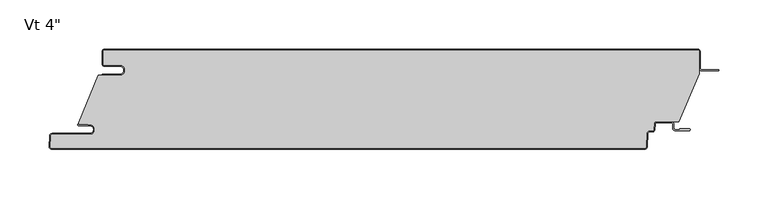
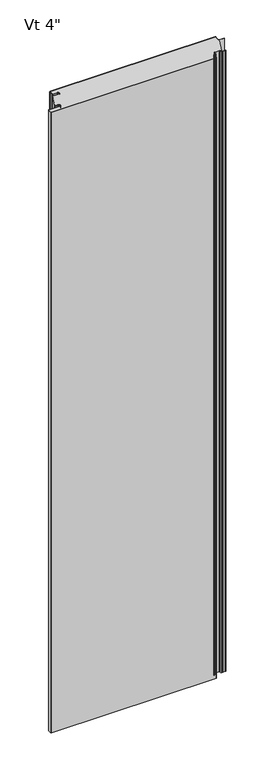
"""IFC4 building model written with IfcOpenShell, lengths in millimetres: plate geometry."""

from ifc_helpers import new_model, si_unit, point, frame, frame_2d, origin, origin_with_axes, place, context, project, spatial, polyline, circle_curve, ellipse_curve, trimmed, segment, composite_curve, outline, extrude, source, transform, mapped, element, save
from ifc_brep_helpers import plane_surface, cylinder_surface, revolved_surface, extruded_surface, advanced_brep


def plate_b093a8a8(model_context):
    return source(origin(), model_context, "Body", "SolidModel", [
        extrude(outline(composite_curve([segment(polyline([(-285.74375, -16.4625), (-301.61875, -16.4625)]), True, "CONTINUOUS"), segment(trimmed(circle_curve(frame_2d((-301.61875, -15.08125)), 1.38125), [point((-301.61875, -16.4625))], [point((-303.0, -15.08125))], False, "CARTESIAN"), True, "CONTINUOUS"), segment(polyline([(-303.0, -15.08125), (-303.0, -2.38125)]), True, "CONTINUOUS"), segment(trimmed(circle_curve(frame_2d((-301.61875, -2.38125)), 1.38125), [point((-303.0, -2.38125))], [point((-301.61875, -1.0))], False, "CARTESIAN"), True, "CONTINUOUS"), segment(polyline([(-301.61875, -1.0), (301.63125, -1.0)]), True, "CONTINUOUS"), segment(trimmed(circle_curve(frame_2d((301.63125, -2.38125)), 1.38125), [point((301.63125, -1.0))], [point((303.0125, -2.38125))], False, "CARTESIAN"), True, "CONTINUOUS"), segment(polyline([(303.0125, -2.38125), (303.0125, -24.9057308), (282.1955434, -73.6125), (259.7540783, -73.6125)]), True, "CONTINUOUS"), segment(trimmed(circle_curve(frame_2d((259.7540783, -76.2)), 2.5875), [point((259.7540783, -73.6125))], [point((257.1701244, -76.0645807))], True, "CARTESIAN"), True, "CONTINUOUS"), segment(polyline([(257.1701244, -76.0645807), (256.8680481, -81.828539)]), True, "CONTINUOUS"), segment(trimmed(circle_curve(frame_2d((255.4886911, -81.75625)), 1.38125), [point((256.8680481, -81.828539))], [point((255.4886911, -83.1375))], False, "CARTESIAN"), True, "CONTINUOUS"), segment(polyline([(255.4886911, -83.1375), (252.4448847, -83.1375)]), True, "CONTINUOUS"), segment(trimmed(circle_curve(frame_2d((252.4448847, -85.725)), 2.5875), [point((252.4448847, -83.1375))], [point((249.8609307, -85.5895807))], True, "CARTESIAN"), True, "CONTINUOUS"), segment(polyline([(249.8609307, -85.5895807), (249.1428677, -99.291039)]), True, "CONTINUOUS"), segment(trimmed(circle_curve(frame_2d((247.7635107, -99.21875)), 1.38125), [point((249.1428677, -99.291039))], [point((247.7635107, -100.6))], False, "CARTESIAN"), True, "CONTINUOUS"), segment(polyline([(247.7635107, -100.6), (-355.4799535, -100.6)]), True, "CONTINUOUS"), segment(trimmed(circle_curve(frame_2d((-355.4799535, -99.21875)), 1.38125), [point((-355.4799535, -100.6))], [point((-356.8593106, -99.146461))], False, "CARTESIAN"), True, "CONTINUOUS"), segment(polyline([(-356.8593106, -99.146461), (-356.2769291, -88.033961)]), True, "CONTINUOUS"), segment(trimmed(circle_curve(frame_2d((-354.8975721, -88.10625)), 1.38125), [point((-356.2769291, -88.033961))], [point((-354.8975721, -86.725))], False, "CARTESIAN"), True, "CONTINUOUS"), segment(polyline([(-354.8975721, -86.725), (-316.7142674, -86.725)]), True, "CONTINUOUS"), segment(trimmed(circle_curve(frame_2d((-316.7142674, -81.75625)), 4.96875), [point((-316.7142674, -86.725))], [point((-316.7142674, -76.7875))], True, "CARTESIAN"), True, "CONTINUOUS"), segment(polyline([(-316.7142674, -76.7875), (-318.3017674, -76.99375), (-318.3017674, -76.2), (-327.8125, -76.2), (-327.8125, -74.6157227), (-307.9260922, -26.4), (-285.74375, -26.4)]), True, "CONTINUOUS"), segment(trimmed(circle_curve(frame_2d((-285.74375, -21.43125)), 4.96875), [point((-285.74375, -26.4))], [point((-285.74375, -16.4625))], True, "CARTESIAN"), True, "CONTINUOUS")], self_intersect=False)), origin_with_axes(), (0.0, 0.0, 1.0), 2400.0),
        extrude(outline(composite_curve([segment(polyline([(-304.0, -25.4), (-285.74375, -25.4)]), True, "CONTINUOUS"), segment(trimmed(circle_curve(frame_2d((-285.74375, -21.43125)), 3.96875), [point((-285.74375, -25.4))], [point((-285.74375, -17.4625))], True, "CARTESIAN"), True, "CONTINUOUS"), segment(polyline([(-285.74375, -17.4625), (-301.61875, -17.4625)]), True, "CONTINUOUS"), segment(trimmed(circle_curve(frame_2d((-301.61875, -15.08125)), 2.38125), [point((-301.61875, -17.4625))], [point((-304.0, -15.08125))], False, "CARTESIAN"), True, "CONTINUOUS"), segment(polyline([(-304.0, -15.08125), (-304.0, -2.38125)]), True, "CONTINUOUS"), segment(trimmed(circle_curve(frame_2d((-301.61875, -2.38125)), 2.38125), [point((-304.0, -2.38125))], [point((-301.61875, 0.0))], False, "CARTESIAN"), True, "CONTINUOUS"), segment(polyline([(-301.61875, 0.0), (301.63125, 0.0)]), True, "CONTINUOUS"), segment(trimmed(circle_curve(frame_2d((301.63125, -2.38125)), 2.38125), [point((301.63125, 0.0))], [point((304.0125, -2.38125))], False, "CARTESIAN"), True, "CONTINUOUS"), segment(polyline([(304.0125, -2.38125), (304.0125, -19.446875)]), True, "CONTINUOUS"), segment(trimmed(circle_curve(frame_2d((305.6, -19.446875)), 1.5875), [point((304.0125, -19.446875))], [point((305.6, -21.034375))], True, "CARTESIAN"), True, "CONTINUOUS"), segment(polyline([(305.6, -21.034375), (323.0625, -21.034375), (323.0625, -22.034375), (305.6, -22.034375)]), True, "CONTINUOUS"), segment(trimmed(circle_curve(frame_2d((305.6, -19.446875)), 2.5875), [point((305.6, -22.034375))], [point((303.0125, -19.446875))], False, "CARTESIAN"), True, "CONTINUOUS"), segment(polyline([(303.0125, -19.446875), (303.0125, -2.38125)]), True, "CONTINUOUS"), segment(trimmed(circle_curve(frame_2d((301.63125, -2.38125)), 1.38125), [point((303.0125, -2.38125))], [point((301.63125, -1.0))], True, "CARTESIAN"), True, "CONTINUOUS"), segment(polyline([(301.63125, -1.0), (-301.61875, -1.0)]), True, "CONTINUOUS"), segment(trimmed(circle_curve(frame_2d((-301.61875, -2.38125)), 1.38125), [point((-301.61875, -1.0))], [point((-303.0, -2.38125))], True, "CARTESIAN"), True, "CONTINUOUS"), segment(polyline([(-303.0, -2.38125), (-303.0, -15.08125)]), True, "CONTINUOUS"), segment(trimmed(circle_curve(frame_2d((-301.61875, -15.08125)), 1.38125), [point((-303.0, -15.08125))], [point((-301.61875, -16.4625))], True, "CARTESIAN"), True, "CONTINUOUS"), segment(polyline([(-301.61875, -16.4625), (-285.74375, -16.4625)]), True, "CONTINUOUS"), segment(trimmed(circle_curve(frame_2d((-285.74375, -21.43125)), 4.96875), [point((-285.74375, -16.4625))], [point((-285.74375, -26.4))], False, "CARTESIAN"), True, "CONTINUOUS"), segment(polyline([(-285.74375, -26.4), (-304.0, -26.4), (-304.0, -25.4)]), True, "CONTINUOUS")], self_intersect=False)), origin_with_axes(), (0.0, 0.0, 1.0), 2400.0),
        advanced_brep(
        [(-328.0252049, -76.2, 2400.0), (-328.0252049, -77.7875, 2400.0), (-316.7142674, -77.7875, 2400.0), (-316.7142674, -85.725, 2400.0), (-354.8975721, -85.725, 2400.0), (-357.2755586, -87.981625, 2400.0), (-357.8579401, -99.094125, 2400.0), (-355.4799535, -101.6, 2400.0), (247.7635107, -101.6, 2400.0), (250.1414973, -99.343375, 2400.0), (250.8595603, -85.6419167, 2400.0), (252.4448847, -84.1375, 2400.0), (255.4886911, -84.1375, 2400.0), (257.8666776, -81.880875, 2400.0), (258.1687539, -76.1169167, 2400.0), (259.7540783, -74.6125, 2400.0), (274.6294826, -74.6125, 2400.0), (276.2169826, -76.2, 2400.0), (276.2169826, -80.3671875, 2400.0), (278.5982326, -82.7484375, 2400.0), (293.0898532, -82.7484375, 2400.0), (293.0898532, -80.9546875, 2400.0), (283.3607326, -80.9546875, 2400.0), (283.3607326, -81.7484375, 2400.0), (278.5982326, -81.7484375, 2400.0), (277.2169826, -80.3671875, 2400.0), (277.2169826, -76.2, 2400.0), (274.6294826, -73.6125, 2400.0), (259.7540783, -73.6125, 2400.0), (257.1701244, -76.0645807, 2400.0), (256.8680481, -81.828539, 2400.0), (255.4886911, -83.1375, 2400.0), (252.4448847, -83.1375, 2400.0), (249.8609307, -85.5895807, 2400.0), (249.1428677, -99.291039, 2400.0), (247.7635107, -100.6, 2400.0), (-355.4799535, -100.6, 2400.0), (-356.8593106, -99.146461, 2400.0), (-356.2769291, -88.033961, 2400.0), (-354.8975721, -86.725, 2400.0), (-316.7142674, -86.725, 2400.0), (-316.7142674, -76.7875, 2400.0), (-318.3017674, -76.99375, 2400.0), (-318.3017674, -76.2, 2400.0), (-328.0252049, -76.2, 0.0), (-318.3017674, -76.2, 0.0), (-318.3017674, -76.99375, 0.0), (-316.7142674, -76.7875, 0.0), (-316.7142674, -86.725, 0.0), (-354.8975721, -86.725, 0.0), (-356.2769291, -88.033961, 0.0), (-356.8593106, -99.146461, 0.0), (-355.4799535, -100.6, 0.0), (247.7635107, -100.6, 0.0), (249.1428677, -99.291039, 0.0), (249.8609307, -85.5895807, 0.0), (252.4448847, -83.1375, 0.0), (255.4886911, -83.1375, 0.0), (256.8680481, -81.828539, 0.0), (257.1701244, -76.0645807, 0.0), (259.7540783, -73.6125, 0.0), (274.6294826, -73.6125, 0.0), (277.2169826, -76.2, 0.0), (277.2169826, -80.3671875, 0.0), (278.5982326, -81.7484375, 0.0), (283.3607326, -81.7484375, 0.0), (283.3607326, -80.9546875, 0.0), (293.0898532, -80.9546875, 0.0), (293.0898532, -82.7484375, 0.0), (278.5982326, -82.7484375, 0.0), (276.2169826, -80.3671875, 0.0), (276.2169826, -76.2, 0.0), (274.6294826, -74.6125, 0.0), (259.7540783, -74.6125, 0.0), (258.1687539, -76.1169167, 0.0), (257.8666776, -81.880875, 0.0), (255.4886911, -84.1375, 0.0), (252.4448847, -84.1375, 0.0), (250.8595603, -85.6419167, 0.0), (250.1414973, -99.343375, 0.0), (247.7635107, -101.6, 0.0), (-355.4799535, -101.6, 0.0), (-357.8579401, -99.094125, 0.0), (-357.2755586, -87.981625, 0.0), (-354.8975721, -85.725, 0.0), (-316.7142674, -85.725, 0.0), (-316.7142674, -77.7875, 0.0), (-328.0252049, -77.7875, 0.0)],
        [
            (0, 1, circle_curve(frame((-328.0252049, -76.99375, 2400.0), z_axis=(0.0, 0.0, 1.0), x_axis=(1.0, 0.0, 0.0)), 0.79375)),
            (1, 2),
            (2, 3, circle_curve(frame((-316.7142674, -81.75625, 2400.0), z_axis=(0.0, 0.0, -1.0), x_axis=(1.0, 0.0, 0.0)), 3.96875)),
            (3, 4),
            (4, 5, circle_curve(frame((-354.8975721, -88.10625, 2400.0), z_axis=(0.0, 0.0, 1.0), x_axis=(1.0, 0.0, 0.0)), 2.38125)),
            (5, 6),
            (6, 7, circle_curve(frame((-355.4799535, -99.21875, 2400.0), z_axis=(0.0, 0.0, 1.0), x_axis=(1.0, 0.0, 0.0)), 2.38125)),
            (7, 8),
            (8, 9, circle_curve(frame((247.7635107, -99.21875, 2400.0), z_axis=(0.0, 0.0, 1.0), x_axis=(1.0, 0.0, 0.0)), 2.38125)),
            (9, 10),
            (10, 11, circle_curve(frame((252.4448847, -85.725, 2400.0), z_axis=(0.0, 0.0, -1.0), x_axis=(1.0, 0.0, 0.0)), 1.5875)),
            (11, 12),
            (12, 13, circle_curve(frame((255.4886911, -81.75625, 2400.0), z_axis=(0.0, 0.0, 1.0), x_axis=(1.0, 0.0, 0.0)), 2.38125)),
            (13, 14),
            (14, 15, circle_curve(frame((259.7540783, -76.2, 2400.0), z_axis=(0.0, 0.0, -1.0), x_axis=(1.0, 0.0, 0.0)), 1.5875)),
            (15, 16),
            (16, 17, circle_curve(frame((274.6294826, -76.2, 2400.0), z_axis=(0.0, 0.0, -1.0), x_axis=(1.0, 0.0, 0.0)), 1.5875)),
            (17, 18),
            (18, 19, circle_curve(frame((278.5982326, -80.3671875, 2400.0), z_axis=(0.0, 0.0, 1.0), x_axis=(1.0, 0.0, 0.0)), 2.38125)),
            (19, 20),
            (20, 21, ellipse_curve(frame((293.0898532, -81.8515625, 2400.0), z_axis=(0.0, 0.0, 1.0), x_axis=(0.0, 1.0, 0.0)), 0.896875, 0.7852275)),
            (21, 22),
            (22, 23),
            (23, 24),
            (24, 25, circle_curve(frame((278.5982326, -80.3671875, 2400.0), z_axis=(0.0, 0.0, -1.0), x_axis=(1.0, 0.0, 0.0)), 1.38125)),
            (25, 26),
            (26, 27, circle_curve(frame((274.6294826, -76.2, 2400.0), z_axis=(0.0, 0.0, 1.0), x_axis=(1.0, 0.0, 0.0)), 2.5875)),
            (27, 28),
            (28, 29, circle_curve(frame((259.7540783, -76.2, 2400.0), z_axis=(0.0, 0.0, 1.0), x_axis=(1.0, 0.0, 0.0)), 2.5875)),
            (29, 30),
            (30, 31, circle_curve(frame((255.4886911, -81.75625, 2400.0), z_axis=(0.0, 0.0, -1.0), x_axis=(1.0, 0.0, 0.0)), 1.38125)),
            (31, 32),
            (32, 33, circle_curve(frame((252.4448847, -85.725, 2400.0), z_axis=(0.0, 0.0, 1.0), x_axis=(1.0, 0.0, 0.0)), 2.5875)),
            (33, 34),
            (34, 35, circle_curve(frame((247.7635107, -99.21875, 2400.0), z_axis=(0.0, 0.0, -1.0), x_axis=(1.0, 0.0, 0.0)), 1.38125)),
            (35, 36),
            (36, 37, circle_curve(frame((-355.4799535, -99.21875, 2400.0), z_axis=(0.0, 0.0, -1.0), x_axis=(1.0, 0.0, 0.0)), 1.38125)),
            (37, 38),
            (38, 39, circle_curve(frame((-354.8975721, -88.10625, 2400.0), z_axis=(0.0, 0.0, -1.0), x_axis=(1.0, 0.0, 0.0)), 1.38125)),
            (39, 40),
            (40, 41, circle_curve(frame((-316.7142674, -81.75625, 2400.0), z_axis=(0.0, 0.0, 1.0), x_axis=(1.0, 0.0, 0.0)), 4.96875)),
            (41, 42),
            (42, 43),
            (43, 0),
            (44, 45),
            (45, 46),
            (46, 47),
            (47, 48, circle_curve(frame((-316.7142674, -81.75625, 0.0), z_axis=(0.0, 0.0, -1.0), x_axis=(1.0, 0.0, 0.0)), 4.96875)),
            (48, 49),
            (49, 50, circle_curve(frame((-354.8975721, -88.10625, 0.0), z_axis=(0.0, 0.0, 1.0), x_axis=(1.0, 0.0, 0.0)), 1.38125)),
            (50, 51),
            (51, 52, circle_curve(frame((-355.4799535, -99.21875, 0.0), z_axis=(0.0, 0.0, 1.0), x_axis=(1.0, 0.0, 0.0)), 1.38125)),
            (52, 53),
            (53, 54, circle_curve(frame((247.7635107, -99.21875, 0.0), z_axis=(0.0, 0.0, 1.0), x_axis=(1.0, 0.0, 0.0)), 1.38125)),
            (54, 55),
            (55, 56, circle_curve(frame((252.4448847, -85.725, 0.0), z_axis=(0.0, 0.0, -1.0), x_axis=(1.0, 0.0, 0.0)), 2.5875)),
            (56, 57),
            (57, 58, circle_curve(frame((255.4886911, -81.75625, 0.0), z_axis=(0.0, 0.0, 1.0), x_axis=(1.0, 0.0, 0.0)), 1.38125)),
            (58, 59),
            (59, 60, circle_curve(frame((259.7540783, -76.2, 0.0), z_axis=(0.0, 0.0, -1.0), x_axis=(1.0, 0.0, 0.0)), 2.5875)),
            (60, 61),
            (61, 62, circle_curve(frame((274.6294826, -76.2, 0.0), z_axis=(0.0, 0.0, -1.0), x_axis=(1.0, 0.0, 0.0)), 2.5875)),
            (62, 63),
            (63, 64, circle_curve(frame((278.5982326, -80.3671875, 0.0), z_axis=(0.0, 0.0, 1.0), x_axis=(1.0, 0.0, 0.0)), 1.38125)),
            (64, 65),
            (65, 66),
            (66, 67),
            (67, 68, ellipse_curve(frame((293.0898532, -81.8515625, 0.0), z_axis=(0.0, 0.0, -1.0), x_axis=(0.0, 1.0, 0.0)), 0.896875, 0.7852275)),
            (68, 69),
            (69, 70, circle_curve(frame((278.5982326, -80.3671875, 0.0), z_axis=(0.0, 0.0, -1.0), x_axis=(1.0, 0.0, 0.0)), 2.38125)),
            (70, 71),
            (71, 72, circle_curve(frame((274.6294826, -76.2, 0.0), z_axis=(0.0, 0.0, 1.0), x_axis=(1.0, 0.0, 0.0)), 1.5875)),
            (72, 73),
            (73, 74, circle_curve(frame((259.7540783, -76.2, 0.0), z_axis=(0.0, 0.0, 1.0), x_axis=(1.0, 0.0, 0.0)), 1.5875)),
            (74, 75),
            (75, 76, circle_curve(frame((255.4886911, -81.75625, 0.0), z_axis=(0.0, 0.0, -1.0), x_axis=(1.0, 0.0, 0.0)), 2.38125)),
            (76, 77),
            (77, 78, circle_curve(frame((252.4448847, -85.725, 0.0), z_axis=(0.0, 0.0, 1.0), x_axis=(1.0, 0.0, 0.0)), 1.5875)),
            (78, 79),
            (79, 80, circle_curve(frame((247.7635107, -99.21875, 0.0), z_axis=(0.0, 0.0, -1.0), x_axis=(1.0, 0.0, 0.0)), 2.38125)),
            (80, 81),
            (81, 82, circle_curve(frame((-355.4799535, -99.21875, 0.0), z_axis=(0.0, 0.0, -1.0), x_axis=(1.0, 0.0, 0.0)), 2.38125)),
            (82, 83),
            (83, 84, circle_curve(frame((-354.8975721, -88.10625, 0.0), z_axis=(0.0, 0.0, -1.0), x_axis=(1.0, 0.0, 0.0)), 2.38125)),
            (84, 85),
            (85, 86, circle_curve(frame((-316.7142674, -81.75625, 0.0), z_axis=(0.0, 0.0, 1.0), x_axis=(1.0, 0.0, 0.0)), 3.96875)),
            (86, 87),
            (87, 44, circle_curve(frame((-328.0252049, -76.99375, 0.0), z_axis=(0.0, 0.0, -1.0), x_axis=(1.0, 0.0, 0.0)), 0.79375)),
            (20, 68),
            (67, 21),
            (66, 22),
            (65, 23),
            (41, 47),
            (46, 42),
            (45, 43),
            (40, 48),
            (39, 49),
            (38, 50),
            (37, 51),
            (33, 55),
            (54, 34),
            (32, 56),
            (31, 57),
            (30, 58),
            (29, 59),
            (28, 60),
            (64, 24),
            (63, 25),
            (62, 26),
            (61, 27),
            (18, 70),
            (69, 19),
            (17, 71),
            (16, 72),
            (15, 73),
            (14, 74),
            (13, 75),
            (12, 76),
            (11, 77),
            (10, 78),
            (9, 79),
            (5, 83),
            (82, 6),
            (4, 84),
            (3, 85),
            (2, 86),
            (1, 87),
            (0, 44),
            (36, 52),
            (35, 53),
            (8, 80),
            (7, 81),
        ],
        [
            plane_surface(frame((0.00625, -101.6, 2400.0), z_axis=(0.0, 0.0, 1.0), x_axis=(0.0, -1.0, 0.0))),
            plane_surface(frame((0.00625, -101.6, 0.0), z_axis=(0.0, 0.0, -1.0), x_axis=(0.0, -1.0, 0.0))),
            extruded_surface(trimmed(ellipse_curve(frame((293.0898532, -81.8515625, 2400.0), z_axis=(0.0, 0.0, -1.0), x_axis=(0.0, 1.0, 0.0)), 0.896875, 0.7852275), [point((293.0898532, -80.9546875, 2400.0))], [point((293.0898532, -82.7484375, 2400.0))], True, "CARTESIAN"), (0.0, 0.0, -2400.0), 2400.0),
            plane_surface(frame((283.3607326, -80.9546875, 2400.0), z_axis=(0.0, 1.0, 0.0), x_axis=(0.0, 0.0, -1.0))),
            plane_surface(frame((283.3607326, -81.7484375, 2400.0), z_axis=(-1.0, 0.0, 0.0), x_axis=(0.0, 0.0, -1.0))),
            plane_surface(frame((-318.3017674, -76.99375, 2400.0), z_axis=(-0.12883844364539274, 0.9916655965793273, 0.0), x_axis=(0.0, 0.0, -1.0))),
            plane_surface(frame((-318.3017674, -76.2, 2400.0), z_axis=(1.0, 0.0, 0.0), x_axis=(0.0, 0.0, -1.0))),
            cylinder_surface(frame((-316.7142674, -81.75625, 2400.0), z_axis=(0.0, 0.0, 1.0), x_axis=(1.0, 0.0, 0.0)), 4.96875),
            plane_surface(frame((-316.7142674, -86.725, 2400.0), z_axis=(0.0, -1.0, 0.0), x_axis=(0.0, 0.0, -1.0))),
            revolved_surface(polyline([(-353.51632209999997, -88.10625, 0.0), (-353.51632209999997, -88.10625, 2400.0)]), (-354.8975721, -88.10625, 2400.0), (0.0, 0.0, -1.0)),
            plane_surface(frame((-356.2769291, -88.033961, 2400.0), z_axis=(0.9986295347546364, -0.05233595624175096, 0.0), x_axis=(0.0, 0.0, -1.0))),
            plane_surface(frame((249.1428677, -99.291039, 2400.0), z_axis=(-0.9986295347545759, 0.05233595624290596, 0.0), x_axis=(0.0, 0.0, -1.0))),
            cylinder_surface(frame((252.4448847, -85.725, 2400.0), z_axis=(0.0, 0.0, 1.0), x_axis=(1.0, 0.0, 0.0)), 2.5875),
            plane_surface(frame((252.4448847, -83.1375, 2400.0), z_axis=(0.0, 1.0, 0.0), x_axis=(0.0, 0.0, -1.0))),
            revolved_surface(polyline([(256.8699411, -81.75625, 0.0), (256.8699411, -81.75625, 2400.0)]), (255.4886911, -81.75625, 2400.0), (0.0, 0.0, -1.0)),
            plane_surface(frame((256.8680481, -81.828539, 2400.0), z_axis=(-0.998629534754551, 0.05233595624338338, 0.0), x_axis=(0.0, 0.0, -1.0))),
            cylinder_surface(frame((259.7540783, -76.2, 2400.0), z_axis=(0.0, 0.0, 1.0), x_axis=(1.0, 0.0, 0.0)), 2.5875),
            plane_surface(frame((278.5982326, -81.7484375, 2400.0), z_axis=(0.0, 1.0, 0.0), x_axis=(0.0, 0.0, -1.0))),
            revolved_surface(polyline([(279.97948260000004, -80.3671875, 0.0), (279.97948260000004, -80.3671875, 2400.0)]), (278.5982326, -80.3671875, 2400.0), (0.0, 0.0, -1.0)),
            plane_surface(frame((277.2169826, -76.2, 2400.0), z_axis=(1.0, 0.0, 0.0), x_axis=(0.0, 0.0, -1.0))),
            cylinder_surface(frame((274.6294826, -76.2, 2400.0), z_axis=(0.0, 0.0, 1.0), x_axis=(1.0, 0.0, 0.0)), 2.5875),
            plane_surface(frame((259.7540783, -73.6125, 2400.0), z_axis=(0.0, 1.0, 0.0), x_axis=(0.0, 0.0, -1.0))),
            cylinder_surface(frame((278.5982326, -80.3671875, 2400.0), z_axis=(0.0, 0.0, 1.0), x_axis=(1.0, 0.0, 0.0)), 2.38125),
            plane_surface(frame((276.2169826, -80.3671875, 2400.0), z_axis=(-1.0, 0.0, 0.0), x_axis=(0.0, 0.0, -1.0))),
            revolved_surface(polyline([(276.2169826, -76.2, 0.0), (276.2169826, -76.2, 2400.0)]), (274.6294826, -76.2, 2400.0), (0.0, 0.0, -1.0)),
            plane_surface(frame((274.6294826, -74.6125, 2400.0), z_axis=(0.0, -1.0, 0.0), x_axis=(0.0, 0.0, -1.0))),
            revolved_surface(polyline([(261.3415783, -76.2, 0.0), (261.3415783, -76.2, 2400.0)]), (259.7540783, -76.2, 2400.0), (0.0, 0.0, -1.0)),
            plane_surface(frame((258.1687539, -76.1169167, 2400.0), z_axis=(0.9986295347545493, -0.05233595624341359, 0.0), x_axis=(0.0, 0.0, -1.0))),
            cylinder_surface(frame((255.4886911, -81.75625, 2400.0), z_axis=(0.0, 0.0, 1.0), x_axis=(1.0, 0.0, 0.0)), 2.38125),
            plane_surface(frame((255.4886911, -84.1375, 2400.0), z_axis=(0.0, -1.0, 0.0), x_axis=(0.0, 0.0, -1.0))),
            revolved_surface(polyline([(254.0323847, -85.725, 0.0), (254.0323847, -85.725, 2400.0)]), (252.4448847, -85.725, 2400.0), (0.0, 0.0, -1.0)),
            plane_surface(frame((250.8595603, -85.6419167, 2400.0), z_axis=(0.9986295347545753, -0.052335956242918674, 0.0), x_axis=(0.0, 0.0, -1.0))),
            plane_surface(frame((-357.8579401, -99.094125, 2400.0), z_axis=(-0.9986295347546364, 0.05233595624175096, 0.0), x_axis=(0.0, 0.0, -1.0))),
            cylinder_surface(frame((-354.8975721, -88.10625, 2400.0), z_axis=(0.0, 0.0, 1.0), x_axis=(1.0, 0.0, 0.0)), 2.38125),
            plane_surface(frame((-354.8975721, -85.725, 2400.0), z_axis=(0.0, 1.0, 0.0), x_axis=(0.0, 0.0, -1.0))),
            revolved_surface(polyline([(-312.7455174, -81.75625, 0.0), (-312.7455174, -81.75625, 2400.0)]), (-316.7142674, -81.75625, 2400.0), (0.0, 0.0, -1.0)),
            plane_surface(frame((-316.7142674, -77.7875, 2400.0), z_axis=(0.0, -1.0, 0.0), x_axis=(0.0, 0.0, -1.0))),
            cylinder_surface(frame((-328.0252049, -76.99375, 2400.0), z_axis=(0.0, 0.0, 1.0), x_axis=(1.0, 0.0, 0.0)), 0.79375),
            plane_surface(frame((-328.0252049, -76.2, 2400.0), z_axis=(0.0, 1.0, 0.0), x_axis=(0.0, 0.0, -1.0))),
            revolved_surface(polyline([(-354.0987035, -99.21875, 0.0), (-354.0987035, -99.21875, 2400.0)]), (-355.4799535, -99.21875, 2400.0), (0.0, 0.0, -1.0)),
            plane_surface(frame((-355.4799535, -100.6, 2400.0), z_axis=(0.0, 1.0, 0.0), x_axis=(0.0, 0.0, -1.0))),
            revolved_surface(polyline([(249.1447607, -99.21875, 0.0), (249.1447607, -99.21875, 2400.0)]), (247.7635107, -99.21875, 2400.0), (0.0, 0.0, -1.0)),
            plane_surface(frame((293.0898532, -82.7484375, 2400.0), z_axis=(0.0, -1.0, 0.0), x_axis=(0.0, 0.0, -1.0))),
            cylinder_surface(frame((247.7635107, -99.21875, 2400.0), z_axis=(0.0, 0.0, 1.0), x_axis=(1.0, 0.0, 0.0)), 2.38125),
            plane_surface(frame((247.7635107, -101.6, 2400.0), z_axis=(0.0, -1.0, 0.0), x_axis=(0.0, 0.0, -1.0))),
            cylinder_surface(frame((-355.4799535, -99.21875, 2400.0), z_axis=(0.0, 0.0, 1.0), x_axis=(1.0, 0.0, 0.0)), 2.38125),
        ],
        [
            (0, [[1, 2, 3, 4, 5, 6, 7, 8, 9, 10, 11, 12, 13, 14, 15, 16, 17, 18, 19, 20, 21, 22, 23, 24, 25, 26, 27, 28, 29, 30, 31, 32, 33, 34, 35, 36, 37, 38, 39, 40, 41, 42, 43, 44]]),
            (1, [[45, 46, 47, 48, 49, 50, 51, 52, 53, 54, 55, 56, 57, 58, 59, 60, 61, 62, 63, 64, 65, 66, 67, 68, 69, 70, 71, 72, 73, 74, 75, 76, 77, 78, 79, 80, 81, 82, 83, 84, 85, 86, 87, 88]]),
            (2, [[89, -68, 90, -21]]),
            (3, [[-90, -67, 91, -22]]),
            (4, [[-91, -66, 92, -23]]),
            (5, [[93, -47, 94, -42]]),
            (6, [[-94, -46, 95, -43]]),
            (7, [[96, -48, -93, -41]]),
            (8, [[97, -49, -96, -40]]),
            (9, [[98, -50, -97, -39]]),
            (10, [[99, -51, -98, -38]]),
            (11, [[100, -55, 101, -34]]),
            (12, [[102, -56, -100, -33]]),
            (13, [[103, -57, -102, -32]]),
            (14, [[104, -58, -103, -31]]),
            (15, [[105, -59, -104, -30]]),
            (16, [[106, -60, -105, -29]]),
            (17, [[-92, -65, 107, -24]]),
            (18, [[-107, -64, 108, -25]]),
            (19, [[-108, -63, 109, -26]]),
            (20, [[-109, -62, 110, -27]]),
            (21, [[-110, -61, -106, -28]]),
            (22, [[111, -70, 112, -19]]),
            (23, [[113, -71, -111, -18]]),
            (24, [[114, -72, -113, -17]]),
            (25, [[115, -73, -114, -16]]),
            (26, [[116, -74, -115, -15]]),
            (27, [[117, -75, -116, -14]]),
            (28, [[118, -76, -117, -13]]),
            (29, [[119, -77, -118, -12]]),
            (30, [[120, -78, -119, -11]]),
            (31, [[121, -79, -120, -10]]),
            (32, [[122, -83, 123, -6]]),
            (33, [[124, -84, -122, -5]]),
            (34, [[125, -85, -124, -4]]),
            (35, [[126, -86, -125, -3]]),
            (36, [[127, -87, -126, -2]]),
            (37, [[128, -88, -127, -1]]),
            (38, [[-95, -45, -128, -44]]),
            (39, [[129, -52, -99, -37]]),
            (40, [[130, -53, -129, -36]]),
            (41, [[-101, -54, -130, -35]]),
            (42, [[-112, -69, -89, -20]]),
            (43, [[131, -80, -121, -9]]),
            (44, [[132, -81, -131, -8]]),
            (45, [[-123, -82, -132, -7]]),
        ],
    ),
    ])


if __name__ == "__main__":
    model = new_model("IFC4")
    model_context = context("Model", 3, world=origin())
    ifc_project = project(units=[si_unit("LENGTHUNIT", "METRE", prefix="MILLI")], contexts=[model_context])
    site = spatial("IfcSite", under=ifc_project)
    building = spatial("IfcBuilding", under=site)
    placement = place(None, origin())
    plate_shape = plate_b093a8a8(model_context)
    element("IfcPlate", 1, ObjectType="KIP-24-DWTR-R19-CP-Vt-F : Vt 4\"", at=placement, inside=building, context=model_context, shape_type="MappedRepresentation", body=[
        mapped(plate_shape, transform((0.0, 0.0, 0.0), x_axis=(1.0, 0.0, 0.0), y_axis=(0.0, 1.0, 0.0), z_axis=(0.0, 0.0, 1.0))),
    ])
    save(model, "model.ifc")
